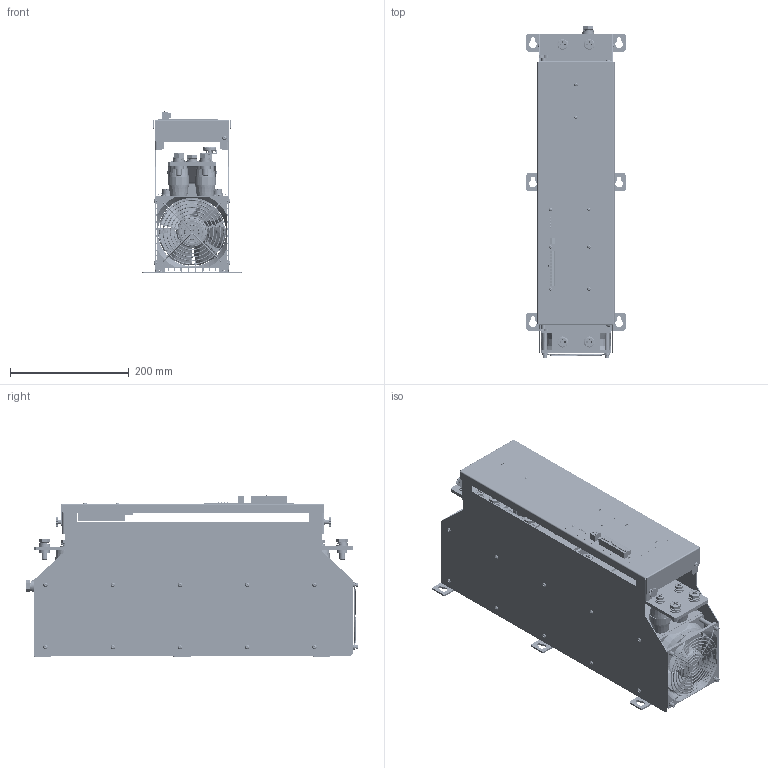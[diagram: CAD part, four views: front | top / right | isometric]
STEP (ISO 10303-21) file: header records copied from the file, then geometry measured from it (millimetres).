
FILE_DESCRIPTION(('STEP AP214'), '1');
FILE_NAME('ﾒﾐﾌ-1ﾌ-720 RS485', '', ('UNSPECIFIED'), ('UNSPECIFIED'), 'ASCON STEP Converter 1.6', 'ASCON Math Kernel', '');
FILE_SCHEMA(('AUTOMOTIVE_DESIGN { 1 0 10303 214 3 1 1}'));
Length unit declared in the file: millimetre
Assembly tree (177 placements, depth 3):
  (unnamed)
    (unnamed)
    (unnamed)
    (unnamed)
    (unnamed)  x6
    (unnamed)
    (unnamed)  x8
    (unnamed)  x8
      (unnamed)
      (unnamed)
      (unnamed)
    (unnamed)
    (unnamed)  x2
      (unnamed)
      (unnamed)
      (unnamed)
      (unnamed)
      (unnamed)
    (unnamed)  x6
    (unnamed)
    (unnamed)  x4
    (unnamed)
    (unnamed)  x4
    (unnamed)  x4
      (unnamed)
      (unnamed)
      (unnamed)
    (unnamed)
      (unnamed)
      (unnamed)
      (unnamed)
    (unnamed)
    (unnamed)  x3
    (unnamed)  x12
    (unnamed)  x12
    (unnamed)
    (unnamed)  x4
      (unnamed)
      (unnamed)
      (unnamed)
    (unnamed)
    (unnamed)
    (unnamed)
    (unnamed)  x2
    (unnamed)
    (unnamed)
    (unnamed)  x8
      (unnamed)
      (unnamed)
      (unnamed)
    (unnamed)  x8
    (unnamed)  x4
      (unnamed)
      (unnamed)
      (unnamed)
    (unnamed)  x4
      (unnamed)
      (unnamed)
      (unnamed)
    (unnamed)  x2
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Bounding box: 167 x 559.02 x 273.98 mm (x, y, z)
Volume: 5167143.1 mm3; surface area: 2381507.4 mm2
Topology: 246 solids, 246 shells, 6117 faces, 15137 edges, 9872 vertices
Faces by surface type: plane 3538, cylinder 1431, bspline 749, torus 204, cone 143, revolution 50, sphere 2
Full cylindrical faces by diameter (mm): 0.7 x2, 1 x25, 1.1 x4, 1.4 x4, 1.5 x6, 1.8 x14, 2 x48, 2.4 x4, 2.5 x2, 2.85 x6, 3 x33, 3.2 x22, 3.3 x22, 3.4 x4, 3.5 x4, 3.9 x14, 4 x40, 4.2 x24, 4.3 x4, 4.4 x12, 4.5 x4, 4.572 x8, 5 x24, 5.3 x4, 5.5 x4, 6 x18, 6.1 x4, 6.4 x6, 6.8 x6, 6.9 x4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
Entity records: 196047 total; most frequent: CARTESIAN_POINT 86311, ORIENTED_EDGE 15422, DIRECTION 14653, EDGE_CURVE 7715, VERTEX_POINT 5280, LINE 4921, VECTOR 4921, AXIS2_PLACEMENT_3D 4854
